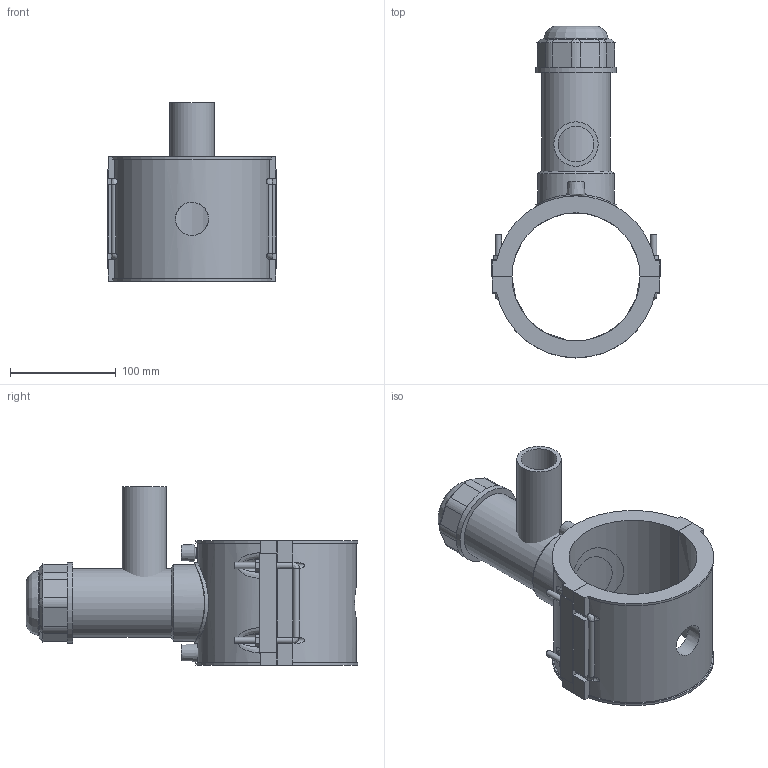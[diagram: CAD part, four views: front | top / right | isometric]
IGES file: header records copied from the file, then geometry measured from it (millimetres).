
Global section: file name: 5963DBP3040013.ipt; native system: Autodesk Inventor 2019; preprocessor: unknown; author: KIM; date: 20210830.101641; units: inch
Bounding box: 161 x 314.4 x 169.04 mm (x, y, z)
Volume: 1182905.2 mm3; surface area: 234131.4 mm2
Topology: 4 solids, 4 shells, 194 faces, 481 edges, 312 vertices
Faces by surface type: plane 118, cylinder 36, revolution 21, cone 15, bspline 4
Full cylindrical faces by diameter (mm): 4 x2, 6 x8, 42.1 x1, 61.135 x1, 64.956 x1, 72.598 x1, 76.419 x2
